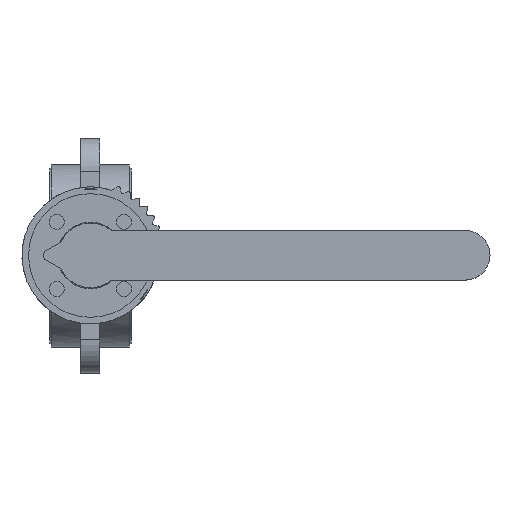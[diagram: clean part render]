
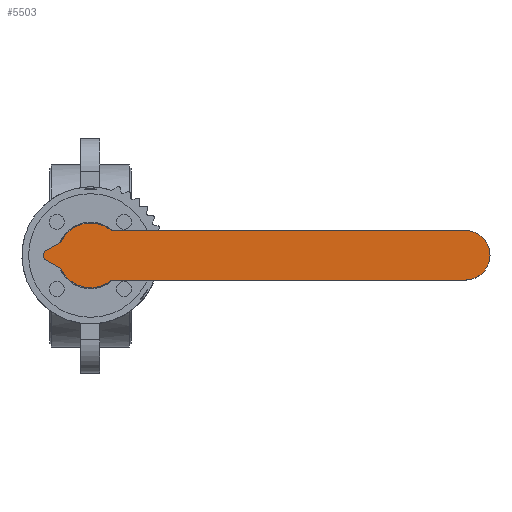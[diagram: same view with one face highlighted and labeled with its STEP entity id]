
A CAD part, top view. The second image highlights one B-rep face of the part: STEP entity #5503.
In plain terms, the highlighted planar face has unit normal (0, 0, 1).
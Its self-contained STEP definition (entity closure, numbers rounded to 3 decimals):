
#5503=ADVANCED_FACE('',(#10753),#10755,.T.);
#10753=FACE_BOUND('',#10754,.T.);
#10754=EDGE_LOOP('',(#15001,#15002,#15003,#15004,#15005,#15006,#15007,#15008,#15009,
#15010,#15011));
#10755=PLANE('',#10756);
#10756=AXIS2_PLACEMENT_3D('',#10757,#10758,#10759);
#10757=CARTESIAN_POINT('',(-1.545,-4.755,196.));
#10758=DIRECTION('',(0.,0.,1.));
#10759=DIRECTION('',(0.951,-0.309,0.));
#15001=ORIENTED_EDGE('',*,*,#17360,.T.);
#15002=ORIENTED_EDGE('',*,*,#17377,.T.);
#15003=ORIENTED_EDGE('',*,*,#17375,.T.);
#15004=ORIENTED_EDGE('',*,*,#17378,.T.);
#15005=ORIENTED_EDGE('',*,*,#17379,.T.);
#15006=ORIENTED_EDGE('',*,*,#17380,.T.);
#15007=ORIENTED_EDGE('',*,*,#17381,.T.);
#15008=ORIENTED_EDGE('',*,*,#17382,.T.);
#15009=ORIENTED_EDGE('',*,*,#17383,.T.);
#15010=ORIENTED_EDGE('',*,*,#17384,.T.);
#15011=ORIENTED_EDGE('',*,*,#17385,.T.);
#17360=EDGE_CURVE('',#20577,#20605,#20607,.T.);
#17375=EDGE_CURVE('',#20637,#20635,#20638,.T.);
#17377=EDGE_CURVE('',#20605,#20637,#20640,.T.);
#17378=EDGE_CURVE('',#20635,#20641,#20642,.T.);
#17379=EDGE_CURVE('',#20641,#20643,#20644,.T.);
#17380=EDGE_CURVE('',#20643,#20645,#20646,.T.);
#17381=EDGE_CURVE('',#20645,#20647,#20648,.T.);
#17382=EDGE_CURVE('',#20647,#20649,#20650,.T.);
#17383=EDGE_CURVE('',#20649,#20651,#20652,.T.);
#17384=EDGE_CURVE('',#20651,#20653,#20654,.T.);
#17385=EDGE_CURVE('',#20653,#20577,#20655,.T.);
#20577=VERTEX_POINT('',#29086);
#20605=VERTEX_POINT('',#29142);
#20607=LINE('',#29146,#29147);
#20635=VERTEX_POINT('',#29202);
#20637=VERTEX_POINT('',#29206);
#20638=LINE('',#29207,#29208);
#20640=CIRCLE('',#29213,13.);
#20641=VERTEX_POINT('',#29217);
#20642=CIRCLE('',#29218,17.);
#20643=VERTEX_POINT('',#29222);
#20644=CIRCLE('',#29223,17.);
#20645=VERTEX_POINT('',#29227);
#20646=CIRCLE('',#29228,3.);
#20647=VERTEX_POINT('',#29232);
#20648=LINE('',#29233,#29234);
#20649=VERTEX_POINT('',#29236);
#20650=CIRCLE('',#29237,3.);
#20651=VERTEX_POINT('',#29241);
#20652=LINE('',#29242,#29243);
#20653=VERTEX_POINT('',#29245);
#20654=CIRCLE('',#29246,3.);
#20655=CIRCLE('',#29250,17.);
#29086=CARTESIAN_POINT('',(10.954,-13.,196.));
#29142=CARTESIAN_POINT('',(197.,-13.,196.));
#29146=CARTESIAN_POINT('',(10.954,-13.,196.));
#29147=VECTOR('',#29148,1.);
#29148=DIRECTION('',(1.,0.,0.));
#29202=CARTESIAN_POINT('',(10.954,13.,196.));
#29206=CARTESIAN_POINT('',(197.,13.,196.));
#29207=CARTESIAN_POINT('',(197.,13.,196.));
#29208=VECTOR('',#29209,1.);
#29209=DIRECTION('',(-1.,0.,0.));
#29213=AXIS2_PLACEMENT_3D('',#29214,#29215,#29216);
#29214=CARTESIAN_POINT('',(197.,0.,196.));
#29215=DIRECTION('',(0.,0.,1.));
#29216=DIRECTION('',(0.,-1.,0.));
#29217=CARTESIAN_POINT('',(2.659,16.791,196.));
#29218=AXIS2_PLACEMENT_3D('',#29219,#29220,#29221);
#29219=CARTESIAN_POINT('',(0.,0.,196.));
#29220=DIRECTION('',(0.,0.,1.));
#29221=DIRECTION('',(0.644,0.765,0.));
#29222=CARTESIAN_POINT('',(-15.113,7.785,196.));
#29223=AXIS2_PLACEMENT_3D('',#29224,#29225,#29226);
#29224=CARTESIAN_POINT('',(0.,0.,196.));
#29225=DIRECTION('',(0.,0.,1.));
#29226=DIRECTION('',(0.156,0.988,0.));
#29227=CARTESIAN_POINT('',(-16.317,6.539,196.));
#29228=AXIS2_PLACEMENT_3D('',#29229,#29230,#29231);
#29229=CARTESIAN_POINT('',(-17.78,9.159,196.));
#29230=DIRECTION('',(0.,0.,-1.));
#29231=DIRECTION('',(0.889,-0.458,0.));
#29232=CARTESIAN_POINT('',(-23.338,2.619,196.));
#29233=CARTESIAN_POINT('',(-16.317,6.539,196.));
#29234=VECTOR('',#29235,1.);
#29235=DIRECTION('',(-0.873,-0.487,0.));
#29236=CARTESIAN_POINT('',(-23.338,-2.619,196.));
#29237=AXIS2_PLACEMENT_3D('',#29238,#29239,#29240);
#29238=CARTESIAN_POINT('',(-21.876,0.,196.));
#29239=DIRECTION('',(0.,0.,1.));
#29240=DIRECTION('',(-0.487,0.873,0.));
#29241=CARTESIAN_POINT('',(-16.317,-6.539,196.));
#29242=CARTESIAN_POINT('',(-23.338,-2.619,196.));
#29243=VECTOR('',#29244,1.);
#29244=DIRECTION('',(0.873,-0.487,0.));
#29245=CARTESIAN_POINT('',(-15.113,-7.785,196.));
#29246=AXIS2_PLACEMENT_3D('',#29247,#29248,#29249);
#29247=CARTESIAN_POINT('',(-17.78,-9.159,196.));
#29248=DIRECTION('',(0.,0.,-1.));
#29249=DIRECTION('',(0.487,0.873,0.));
#29250=AXIS2_PLACEMENT_3D('',#29251,#29252,#29253);
#29251=CARTESIAN_POINT('',(0.,0.,196.));
#29252=DIRECTION('',(0.,0.,1.));
#29253=DIRECTION('',(-0.889,-0.458,0.));
